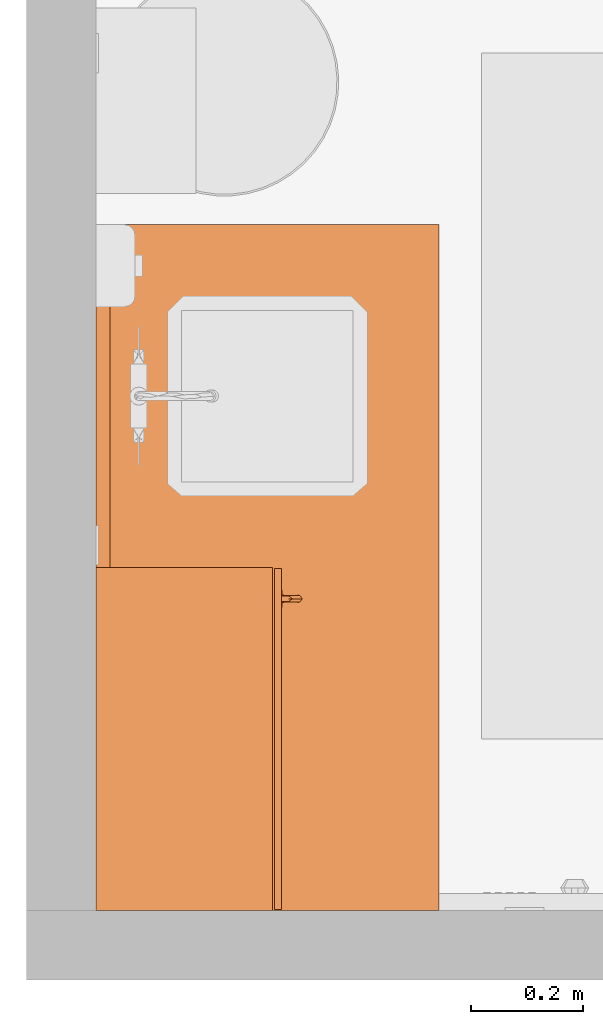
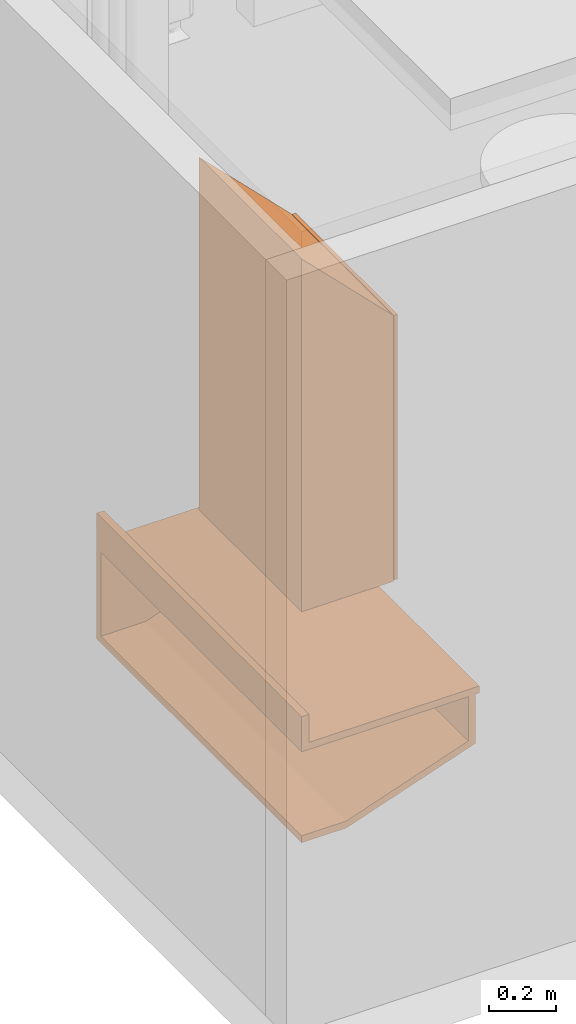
# One storey, part 7 of 9: 2 proxies.
"""IFC2X3 building model written with IfcOpenShell, lengths in feet."""

from ifc_helpers import new_model, entity, si_unit, converted_unit, derived_unit, direction, frame, origin, place, context, subcontext, project, spatial, faceted_brep, source, transform, mapped, type_object, type_shapes, element, save


model = new_model("IFC2X3")

# Units and contexts
model_context = context("Model", 3, precision=0.0001, world=origin(), true_north=direction((6.12303176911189e-17, 1.0)))
body_context = subcontext(model_context, "Body", "Model", "MODEL_VIEW")
ifc_project = project(units=[converted_unit("LENGTHUNIT", "FOOT", entity("IfcRatioMeasure", 0.3048), si_unit("LENGTHUNIT", "METRE"), dimensions=[1, 0, 0, 0, 0, 0, 0]), converted_unit("AREAUNIT", "SQUARE FOOT", entity("IfcRatioMeasure", 0.09290304), si_unit("AREAUNIT", "SQUARE_METRE"), dimensions=[2, 0, 0, 0, 0, 0, 0]), converted_unit("VOLUMEUNIT", "CUBIC FOOT", entity("IfcRatioMeasure", 0.028316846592), si_unit("VOLUMEUNIT", "CUBIC_METRE"), dimensions=[3, 0, 0, 0, 0, 0, 0]), converted_unit("PLANEANGLEUNIT", "DEGREE", entity("IfcRatioMeasure", 0.0174532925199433), si_unit("PLANEANGLEUNIT", "RADIAN"), dimensions=[0, 0, 0, 0, 0, 0, 0]), si_unit("MASSUNIT", "GRAM", prefix="KILO"), derived_unit("MASSDENSITYUNIT", [(si_unit("MASSUNIT", "GRAM", prefix="KILO"), 1), (si_unit("LENGTHUNIT", "METRE"), -3)]), si_unit("TIMEUNIT", "SECOND"), si_unit("FREQUENCYUNIT", "HERTZ"), si_unit("THERMODYNAMICTEMPERATUREUNIT", "DEGREE_CELSIUS"), derived_unit("THERMALTRANSMITTANCEUNIT", [(si_unit("MASSUNIT", "GRAM", prefix="KILO"), 1), (si_unit("THERMODYNAMICTEMPERATUREUNIT", "KELVIN"), -1), (si_unit("TIMEUNIT", "SECOND"), -3)]), derived_unit("VOLUMETRICFLOWRATEUNIT", [(si_unit("LENGTHUNIT", "METRE"), 3), (si_unit("TIMEUNIT", "SECOND"), -1)]), si_unit("ELECTRICCURRENTUNIT", "AMPERE"), si_unit("ELECTRICVOLTAGEUNIT", "VOLT"), si_unit("POWERUNIT", "WATT"), si_unit("FORCEUNIT", "NEWTON"), si_unit("ILLUMINANCEUNIT", "LUX"), si_unit("LUMINOUSFLUXUNIT", "LUMEN"), si_unit("LUMINOUSINTENSITYUNIT", "CANDELA"), derived_unit("USERDEFINED", [(si_unit("MASSUNIT", "GRAM", prefix="KILO"), -1), (si_unit("LENGTHUNIT", "METRE"), -2), (si_unit("TIMEUNIT", "SECOND"), 3), (si_unit("LUMINOUSFLUXUNIT", "LUMEN"), 1)]), derived_unit("LINEARVELOCITYUNIT", [(si_unit("LENGTHUNIT", "METRE"), 1), (si_unit("TIMEUNIT", "SECOND"), -1)]), si_unit("PRESSUREUNIT", "PASCAL"), derived_unit("USERDEFINED", [(si_unit("LENGTHUNIT", "METRE"), -2), (si_unit("MASSUNIT", "GRAM", prefix="KILO"), 1), (si_unit("TIMEUNIT", "SECOND"), -2)])], contexts=[model_context])

# Site, building, storey, space
site_placement = place(None, origin())
site = spatial("IfcSite", under=ifc_project, at=site_placement, Name="Default", CompositionType="ELEMENT")
building_placement = place(site_placement, origin())
building = spatial("IfcBuilding", under=site, at=building_placement, Name="OUTPATIENT / PACT CLINIC (Ch. 265)", CompositionType="ELEMENT")
storey_placement = place(building_placement, origin())
storey = spatial("IfcBuildingStorey", under=building, at=storey_placement, Name="DATUM", CompositionType="ELEMENT", Elevation=0.0)
space_placement = place(storey_placement, origin())
space = spatial("IfcSpace", under=storey, at=space_placement, Name="WRTM2", CompositionType="ELEMENT", InteriorOrExteriorSpace="INTERNAL")

# Proxies
building_element_proxy_type_1 = type_object("IfcBuildingElementProxyType", Name="CT020 - Countertop, Solid Surface", PredefinedType="NOTDEFINED")
shared_shape_1 = source(origin(), body_context, "Body", "Brep", [
    faceted_brep([(-2.0, -0.874999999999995, 0.0), (-2.0, -0.874999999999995, -0.528571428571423), (-2.0, 0.500000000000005, -1.0), (-2.0, 1.0, -1.0), (-2.0, 1.0, -1.08333333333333), (-2.0, 0.500000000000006, -1.08333333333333), (-2.0, -0.958333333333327, -0.583333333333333), (-2.0, -0.958333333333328, 0.0), (1.91666666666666, -0.875000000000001, 0.0), (1.91666666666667, -0.875000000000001, -0.528571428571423), (2.0, -0.958333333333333, 0.0), (2.0, -0.958333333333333, -0.583333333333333), (2.0, 1.0, 0.0), (1.91666666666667, 1.0, 0.0), (1.91666666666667, 1.0, -1.0), (1.91666666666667, 0.499999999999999, -1.0), (2.0, 0.499999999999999, -1.08333333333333), (2.0, 1.0, -1.08333333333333)], [[[0, 1, 2, 3, 4, 5, 6, 7]], [[1, 0, 8, 9]], [[10, 7, 6, 11]], [[0, 7, 10, 12, 13, 8]], [[13, 14, 15, 9, 8]], [[12, 10, 11, 16, 17]], [[14, 13, 12, 17, 4, 3]], [[2, 1, 9, 15]], [[6, 5, 16, 11]], [[17, 16, 5, 4]], [[3, 2, 15, 14]]]),
    faceted_brep([(-2.0, 0.91666666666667, 0.416666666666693), (-2.0, 1.0, 0.416666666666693), (-2.0, 1.0, 0.0833333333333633), (-2.0, 0.91666666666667, 0.0833333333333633), (2.0, 0.916666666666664, 0.416666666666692), (2.0, 0.916666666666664, 0.0833333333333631), (2.0, 1.0, 0.0833333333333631), (2.0, 1.0, 0.416666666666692)], [[[0, 1, 2, 3]], [[4, 5, 6, 7]], [[1, 0, 4, 7]], [[2, 1, 7, 6]], [[3, 2, 6, 5]], [[0, 3, 5, 4]]]),
    faceted_brep([(2.0, 1.0, 0.0833333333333), (-2.0, 1.0, 0.0833333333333), (-2.0, -1.0, 0.0833333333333), (2.0, -1.0, 0.0833333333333), (2.0, 1.0, 0.0), (2.0, -1.0, 0.0), (-2.0, -1.0, 0.0), (-2.0, 1.0, 0.0)], [[[0, 1, 2, 3]], [[4, 5, 6, 7]], [[1, 0, 4, 7]], [[2, 1, 7, 6]], [[3, 2, 6, 5]], [[0, 3, 5, 4]]]),
    faceted_brep([(-2.0, 1.0, 0.0833333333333), (-2.0, 0.0, 0.0833333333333), (-2.0, -1.0, 0.0833333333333), (2.0, -1.0, 0.0833333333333), (2.0, 1.0, 0.0833333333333), (-2.0, 1.0, 0.0), (2.0, 1.0, 0.0), (2.0, -1.0, 0.0), (-2.0, -1.0, 0.0), (-2.0, 0.0, 0.0)], [[[0, 1, 2, 3, 4]], [[5, 6, 7, 8, 9]], [[1, 0, 5, 9]], [[2, 1, 9, 8]], [[3, 2, 8, 7]], [[4, 3, 7, 6]], [[0, 4, 6, 5]]]),
])
type_shapes(building_element_proxy_type_1, [shared_shape_1])
proxy_1_placement = place(space_placement, frame((210.711487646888, -860.823304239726, 3.0), z_axis=(0.0, 0.0, 1.0), x_axis=(0.0, 1.0, 0.0)))
element("IfcBuildingElementProxy", 1, at=proxy_1_placement, inside=space, type_object=building_element_proxy_type_1, Name="CT020 - Countertop, Solid Surface:CT020 - Countertop, Solid Surface", ObjectType="CT020 - Countertop, Solid Surface", context=body_context, shape_type="MappedRepresentation", body=[
    mapped(shared_shape_1, transform((0.0, 0.0, 0.0), scale=1.0)),
])
building_element_proxy_type_2 = type_object("IfcBuildingElementProxyType", Name="24\"H x 10 1/2\"D x 24\"W Key Alike", PredefinedType="NOTDEFINED")
shared_shape_2 = source(origin(), body_context, "Body", "Brep", [
    faceted_brep([(0.19651385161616, 1.08333333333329, 0.313846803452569), (0.190252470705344, 1.08333333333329, 0.319239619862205), (0.18229166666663, 1.08333333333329, 0.321375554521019), (0.174330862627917, 1.08333333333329, 0.319239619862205), (0.1680694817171, 1.08333333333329, 0.313846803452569), (0.163902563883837, 1.08333333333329, 0.306680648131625), (0.161774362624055, 1.08333333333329, 0.298665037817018), (0.161657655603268, 1.08333333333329, 0.290376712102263), (0.163634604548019, 1.08333333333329, 0.28232853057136), (0.167847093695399, 1.08333333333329, 0.275193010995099), (0.17427568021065, 1.08333333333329, 0.270002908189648), (0.18229166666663, 1.08333333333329, 0.268039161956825), (0.19030765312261, 1.08333333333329, 0.270002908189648), (0.196736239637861, 1.08333333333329, 0.275193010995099), (0.200948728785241, 1.08333333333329, 0.282328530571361), (0.202925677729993, 1.08333333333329, 0.290376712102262), (0.202808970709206, 1.08333333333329, 0.298665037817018), (0.200680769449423, 1.08333333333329, 0.306680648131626), (0.196736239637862, 1.0833333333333, 0.724181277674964), (0.19030765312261, 1.08333333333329, 0.729371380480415), (0.182291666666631, 1.08333333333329, 0.731335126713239), (0.174275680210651, 1.08333333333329, 0.729371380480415), (0.167847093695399, 1.0833333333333, 0.724181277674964), (0.163634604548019, 1.0833333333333, 0.717045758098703), (0.161657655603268, 1.0833333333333, 0.708997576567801), (0.161774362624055, 1.0833333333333, 0.700709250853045), (0.163902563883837, 1.0833333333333, 0.692693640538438), (0.1680694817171, 1.0833333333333, 0.685527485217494), (0.174330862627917, 1.0833333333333, 0.680134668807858), (0.18229166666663, 1.0833333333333, 0.677998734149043), (0.190252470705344, 1.0833333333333, 0.680134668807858), (0.19651385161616, 1.0833333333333, 0.685527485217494), (0.200680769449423, 1.0833333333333, 0.692693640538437), (0.202808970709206, 1.0833333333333, 0.700709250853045), (0.202925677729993, 1.0833333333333, 0.708997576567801), (0.200948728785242, 1.0833333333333, 0.717045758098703), (0.165811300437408, 1.12409268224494, 0.31475680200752), (0.18229166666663, 1.14780337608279, 0.330888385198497), (0.161458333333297, 1.18064118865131, 0.466347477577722), (0.18229166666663, 1.19644572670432, 0.455241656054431), (0.164363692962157, 1.17612945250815, 0.404181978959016), (0.163430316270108, 1.19112262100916, 0.516028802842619), (0.163731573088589, 1.17115358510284, 0.532604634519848), (0.164781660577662, 1.15227782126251, 0.595990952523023), (0.163692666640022, 1.18246164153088, 0.571621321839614), (0.162170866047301, 1.14398369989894, 0.647040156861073), (0.162170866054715, 1.14398369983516, 0.352334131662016), (0.18229166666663, 1.18929021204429, 0.410796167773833), (0.166255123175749, 1.12394533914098, 0.643237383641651), (0.166351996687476, 1.12260037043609, 0.354447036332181), (0.164054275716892, 1.15353637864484, 0.403240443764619), (0.18229166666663, 1.20360124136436, 0.499687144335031), (0.18229166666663, 1.12585787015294, 0.372692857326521), (0.18229166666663, 1.15274042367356, 0.565696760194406), (0.18229166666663, 1.15274042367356, 0.433677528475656), (0.18229166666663, 1.16193457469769, 0.499687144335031), (0.169179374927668, 1.16439089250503, 0.466939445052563), (0.18229166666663, 1.18929021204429, 0.588578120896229), (0.165811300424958, 1.1240926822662, 0.684617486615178), (0.182291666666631, 1.14780337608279, 0.668485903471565), (0.18229166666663, 1.12585787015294, 0.626681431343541), (0.198772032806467, 1.12409268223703, 0.314756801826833), (0.202412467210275, 1.14398369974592, 0.352334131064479), (0.200219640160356, 1.1761294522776, 0.404181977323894), (0.200529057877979, 1.15353637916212, 0.403240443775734), (0.198231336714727, 1.1226003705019, 0.354447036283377), (0.201153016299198, 1.19112262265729, 0.516028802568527), (0.200890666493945, 1.18246164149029, 0.571621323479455), (0.203124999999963, 1.18064118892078, 0.46634747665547), (0.199801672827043, 1.15227782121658, 0.595990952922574), (0.20085176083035, 1.17115358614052, 0.532604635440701), (0.198328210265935, 1.12394533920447, 0.643237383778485), (0.202412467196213, 1.14398369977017, 0.647040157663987), (0.198772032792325, 1.12409268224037, 0.684617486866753)], [[[0, 1, 2, 3, 4, 5, 6, 7, 8, 9, 10, 11, 12, 13, 14, 15, 16, 17]], [[18, 19, 20, 21, 22, 23, 24, 25, 26, 27, 28, 29, 30, 31, 32, 33, 34, 35]], [[10, 36, 37]], [[11, 10, 37]], [[38, 39, 40]], [[38, 41, 39]], [[36, 8, 7]], [[42, 43, 44]], [[43, 45, 44]], [[36, 6, 46]], [[47, 37, 40]], [[36, 10, 9]], [[39, 47, 40]], [[45, 43, 48]], [[36, 46, 37]], [[36, 7, 6]], [[27, 26, 48]], [[5, 4, 49]], [[46, 5, 49]], [[40, 50, 38]], [[39, 41, 51]], [[50, 49, 52]], [[41, 38, 42]], [[49, 3, 2]], [[42, 53, 43]], [[6, 5, 46]], [[54, 55, 56]], [[52, 54, 50]], [[44, 57, 51]], [[41, 44, 51]], [[53, 42, 55]], [[38, 56, 42]], [[46, 40, 37]], [[23, 58, 24]], [[46, 49, 50]], [[21, 58, 22]], [[57, 44, 45]], [[23, 22, 58]], [[3, 49, 4]], [[21, 20, 59]], [[54, 56, 50]], [[25, 24, 58]], [[43, 60, 48]], [[43, 53, 60]], [[46, 50, 40]], [[29, 48, 60]], [[49, 2, 52]], [[58, 59, 45]], [[44, 41, 42]], [[45, 26, 25]], [[21, 59, 58]], [[28, 27, 48]], [[8, 36, 9]], [[59, 57, 45]], [[58, 45, 25]], [[38, 50, 56]], [[28, 48, 29]], [[55, 42, 56]], [[26, 45, 48]], [[12, 37, 61]], [[62, 63, 64]], [[1, 0, 65]], [[62, 17, 16]], [[2, 65, 52]], [[66, 51, 67]], [[65, 2, 1]], [[63, 62, 37]], [[64, 68, 54]], [[54, 52, 64]], [[39, 63, 47]], [[64, 65, 62]], [[61, 13, 12]], [[66, 68, 39]], [[12, 11, 37]], [[13, 61, 14]], [[61, 15, 14]], [[68, 55, 54]], [[69, 60, 53]], [[61, 62, 16]], [[69, 70, 67]], [[61, 16, 15]], [[57, 67, 51]], [[64, 63, 68]], [[53, 55, 70]], [[61, 37, 62]], [[63, 39, 68]], [[53, 70, 69]], [[67, 70, 66]], [[29, 71, 30]], [[0, 17, 65]], [[32, 71, 72]], [[72, 71, 69]], [[73, 72, 59]], [[32, 31, 71]], [[69, 67, 72]], [[33, 32, 72]], [[35, 34, 73]], [[70, 68, 66]], [[35, 73, 18]], [[57, 59, 72]], [[73, 33, 72]], [[33, 73, 34]], [[19, 73, 59]], [[47, 63, 37]], [[19, 59, 20]], [[60, 71, 29]], [[30, 71, 31]], [[19, 18, 73]], [[57, 72, 67]], [[60, 69, 71]], [[52, 65, 64]], [[68, 70, 55]], [[17, 62, 65]], [[51, 66, 39]]]),
    faceted_brep([(0.162168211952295, 1.08854166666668, 0.161274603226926), (0.161458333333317, 1.08854166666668, 0.166666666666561), (0.162168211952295, 1.08854166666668, 0.172058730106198), (0.164249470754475, 1.08854166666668, 0.177083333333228), (0.167560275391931, 1.08854166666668, 0.181398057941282), (0.171874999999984, 1.08854166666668, 0.184708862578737), (0.176899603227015, 1.08854166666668, 0.186790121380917), (0.182291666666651, 1.08854166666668, 0.187499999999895), (0.187683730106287, 1.08854166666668, 0.186790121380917), (0.192708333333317, 1.08854166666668, 0.184708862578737), (0.19702305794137, 1.08854166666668, 0.181398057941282), (0.200333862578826, 1.08854166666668, 0.177083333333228), (0.202415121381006, 1.08854166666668, 0.172058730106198), (0.203124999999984, 1.08854166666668, 0.166666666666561), (0.202415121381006, 1.08854166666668, 0.161274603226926), (0.200333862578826, 1.08854166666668, 0.156249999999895), (0.197023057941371, 1.08854166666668, 0.151935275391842), (0.192708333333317, 1.08854166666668, 0.148624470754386), (0.187683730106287, 1.08854166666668, 0.146543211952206), (0.182291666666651, 1.08854166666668, 0.145833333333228), (0.176899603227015, 1.08854166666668, 0.146543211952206), (0.171874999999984, 1.08854166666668, 0.148624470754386), (0.167560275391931, 1.08854166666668, 0.151935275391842), (0.164249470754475, 1.08854166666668, 0.156249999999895), (0.202415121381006, 1.08593750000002, 0.161274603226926), (0.203124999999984, 1.08593750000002, 0.166666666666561), (0.202415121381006, 1.08593750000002, 0.172058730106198), (0.200333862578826, 1.08593750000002, 0.177083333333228), (0.19702305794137, 1.08593750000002, 0.181398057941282), (0.192708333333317, 1.08593750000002, 0.184708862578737), (0.187683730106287, 1.08593750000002, 0.186790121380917), (0.182291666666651, 1.08593750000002, 0.187499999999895), (0.176899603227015, 1.08593750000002, 0.186790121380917), (0.171874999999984, 1.08593750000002, 0.184708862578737), (0.167560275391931, 1.08593750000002, 0.181398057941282), (0.164249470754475, 1.08593750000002, 0.177083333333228), (0.162168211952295, 1.08593750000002, 0.172058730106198), (0.161458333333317, 1.08593750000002, 0.166666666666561), (0.162168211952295, 1.08593750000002, 0.161274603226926), (0.164249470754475, 1.08593750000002, 0.156249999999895), (0.167560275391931, 1.08593750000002, 0.151935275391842), (0.171874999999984, 1.08593750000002, 0.148624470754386), (0.176899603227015, 1.08593750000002, 0.146543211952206), (0.182291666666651, 1.08593750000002, 0.145833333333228), (0.187683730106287, 1.08593750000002, 0.146543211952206), (0.192708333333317, 1.08593750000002, 0.148624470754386), (0.197023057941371, 1.08593750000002, 0.151935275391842), (0.200333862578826, 1.08593750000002, 0.156249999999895)], [[[0, 1, 2, 3, 4, 5, 6, 7, 8, 9, 10, 11, 12, 13, 14, 15, 16, 17, 18, 19, 20, 21, 22, 23]], [[24, 25, 26, 27, 28, 29, 30, 31, 32, 33, 34, 35, 36, 37, 38, 39, 40, 41, 42, 43, 44, 45, 46, 47]], [[31, 7, 6, 32]], [[32, 6, 5, 33]], [[35, 34, 4, 3]], [[4, 34, 33, 5]], [[36, 35, 3, 2]], [[36, 2, 1, 37]], [[37, 1, 0, 38]], [[38, 0, 23, 39]], [[41, 40, 22, 21]], [[22, 40, 39, 23]], [[42, 41, 21, 20]], [[42, 20, 19, 43]], [[43, 19, 18, 44]], [[44, 18, 17, 45]], [[47, 46, 16, 15]], [[16, 46, 45, 17]], [[24, 47, 15, 14]], [[24, 14, 13, 25]], [[25, 13, 12, 26]], [[26, 12, 11, 27]], [[29, 28, 10, 9]], [[10, 28, 27, 11]], [[30, 29, 9, 8]], [[30, 8, 7, 31]]]),
    faceted_brep([(0.19577182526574, 1.08593750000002, 0.116358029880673), (0.18229166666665, 1.08593750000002, 0.114583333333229), (0.168811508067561, 1.08593750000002, 0.116358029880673), (0.156249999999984, 1.08593750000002, 0.121561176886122), (0.145463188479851, 1.08593750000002, 0.129838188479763), (0.137186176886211, 1.08593750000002, 0.140624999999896), (0.131983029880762, 1.08593750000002, 0.153186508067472), (0.130208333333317, 1.08593750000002, 0.166666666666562), (0.131983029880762, 1.08593750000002, 0.180146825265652), (0.137186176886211, 1.08593750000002, 0.192708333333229), (0.145463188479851, 1.08593750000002, 0.203495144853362), (0.156249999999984, 1.08593750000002, 0.211772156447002), (0.168811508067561, 1.08593750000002, 0.216975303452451), (0.182291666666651, 1.08593750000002, 0.218749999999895), (0.19577182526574, 1.08593750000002, 0.216975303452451), (0.208333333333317, 1.08593750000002, 0.211772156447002), (0.21912014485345, 1.08593750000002, 0.203495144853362), (0.22739715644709, 1.08593750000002, 0.192708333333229), (0.23260030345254, 1.08593750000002, 0.180146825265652), (0.234374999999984, 1.08593750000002, 0.166666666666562), (0.232600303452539, 1.08593750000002, 0.153186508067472), (0.22739715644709, 1.08593750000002, 0.140624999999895), (0.21912014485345, 1.08593750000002, 0.129838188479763), (0.208333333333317, 1.08593750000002, 0.121561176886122), (0.182291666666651, 1.08333333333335, 0.218749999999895), (0.168811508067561, 1.08333333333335, 0.216975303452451), (0.156249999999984, 1.08333333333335, 0.211772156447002), (0.145463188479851, 1.08333333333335, 0.203495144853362), (0.137186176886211, 1.08333333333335, 0.192708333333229), (0.131983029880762, 1.08333333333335, 0.180146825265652), (0.130208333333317, 1.08333333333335, 0.166666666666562), (0.131983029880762, 1.08333333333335, 0.153186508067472), (0.137186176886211, 1.08333333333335, 0.140624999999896), (0.145463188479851, 1.08333333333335, 0.129838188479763), (0.156249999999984, 1.08333333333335, 0.121561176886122), (0.168811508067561, 1.08333333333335, 0.116358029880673), (0.18229166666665, 1.08333333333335, 0.114583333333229), (0.19577182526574, 1.08333333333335, 0.116358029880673), (0.208333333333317, 1.08333333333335, 0.121561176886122), (0.21912014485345, 1.08333333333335, 0.129838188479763), (0.22739715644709, 1.08333333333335, 0.140624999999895), (0.232600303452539, 1.08333333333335, 0.153186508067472), (0.234374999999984, 1.08333333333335, 0.166666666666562), (0.23260030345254, 1.08333333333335, 0.180146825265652), (0.22739715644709, 1.08333333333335, 0.192708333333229), (0.21912014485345, 1.08333333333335, 0.203495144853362), (0.208333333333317, 1.08333333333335, 0.211772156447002), (0.19577182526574, 1.08333333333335, 0.216975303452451)], [[[0, 1, 2, 3, 4, 5, 6, 7, 8, 9, 10, 11, 12, 13, 14, 15, 16, 17, 18, 19, 20, 21, 22, 23]], [[24, 25, 26, 27, 28, 29, 30, 31, 32, 33, 34, 35, 36, 37, 38, 39, 40, 41, 42, 43, 44, 45, 46, 47]], [[30, 7, 6, 31]], [[31, 6, 5, 32]], [[34, 33, 4, 3]], [[4, 33, 32, 5]], [[35, 34, 3, 2]], [[35, 2, 1, 36]], [[36, 1, 0, 37]], [[37, 0, 23, 38]], [[40, 39, 22, 21]], [[22, 39, 38, 23]], [[41, 40, 21, 20]], [[41, 20, 19, 42]], [[42, 19, 18, 43]], [[43, 18, 17, 44]], [[46, 45, 16, 15]], [[16, 45, 44, 17]], [[47, 46, 15, 14]], [[47, 14, 13, 24]], [[24, 13, 12, 25]], [[25, 12, 11, 26]], [[28, 27, 10, 9]], [[10, 27, 26, 11]], [[29, 28, 9, 8]], [[29, 8, 7, 30]]]),
    faceted_brep([(2.0, 1.03125000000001, 0.0), (2.0, 0.0, 0.0), (0.0, 0.0, 0.0), (0.0, 1.03125000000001, 0.0), (0.0, 1.03125000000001, 3.1666666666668), (2.0, 1.03125000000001, 3.16666666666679), (0.0416666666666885, 1.03125000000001, 3.12500000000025), (0.0416666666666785, 1.03125000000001, 0.0416666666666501), (1.95833333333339, 1.03125000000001, 0.0416666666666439), (1.9583333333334, 1.03125000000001, 3.12500000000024), (0.0, 0.0, 4.1979166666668), (2.0, 0.0, 4.19791666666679), (1.9583333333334, 0.0416666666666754, 3.12500000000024), (0.0416666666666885, 0.0416666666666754, 3.12500000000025), (1.95833333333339, 0.0416666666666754, 0.0416666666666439), (0.0416666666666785, 0.0416666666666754, 0.0416666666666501)], [[[0, 1, 2, 3]], [[3, 4, 5, 0], [6, 7, 8, 9]], [[2, 10, 4, 3]], [[1, 11, 10, 2]], [[0, 5, 11, 1]], [[12, 13, 6, 9]], [[14, 8, 7, 15]], [[12, 14, 15, 13]], [[13, 15, 7, 6]], [[9, 8, 14, 12]], [[10, 11, 5, 4]]]),
    faceted_brep([(1.99479166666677, 1.0416666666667, 3.15625000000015), (0.00520833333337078, 1.04166666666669, 3.15625000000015), (0.00520833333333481, 1.04166666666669, 0.0104166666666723), (1.99479166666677, 1.0416666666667, 0.0104166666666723), (1.99479166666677, 1.08333333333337, 3.15625000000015), (1.99479166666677, 1.08333333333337, 0.0104166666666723), (0.00520833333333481, 1.08333333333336, 0.0104166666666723), (0.00520833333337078, 1.08333333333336, 3.15625000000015)], [[[0, 1, 2, 3]], [[4, 5, 6, 7]], [[3, 5, 4, 0]], [[2, 6, 5, 3]], [[1, 7, 6, 2]], [[0, 4, 7, 1]]]),
])
type_shapes(building_element_proxy_type_2, [shared_shape_2])
proxy_2_placement = place(space_placement, frame((209.711487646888, -860.823304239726, 4.66666666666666), z_axis=(0.0, 0.0, 1.0), x_axis=(0.0, -1.0, 0.0)))
element("IfcBuildingElementProxy", 2, at=proxy_2_placement, inside=space, type_object=building_element_proxy_type_2, Name="Z1020 - Cabinet WH-1 DO - Right:24\"H x 10 1/2\"D x 24\"W Key Alike", ObjectType="24\"H x 10 1/2\"D x 24\"W Key Alike", context=body_context, shape_type="MappedRepresentation", body=[
    mapped(shared_shape_2, transform((0.0, 0.0, 0.0), scale=1.0)),
])

save(model, "model.ifc")
